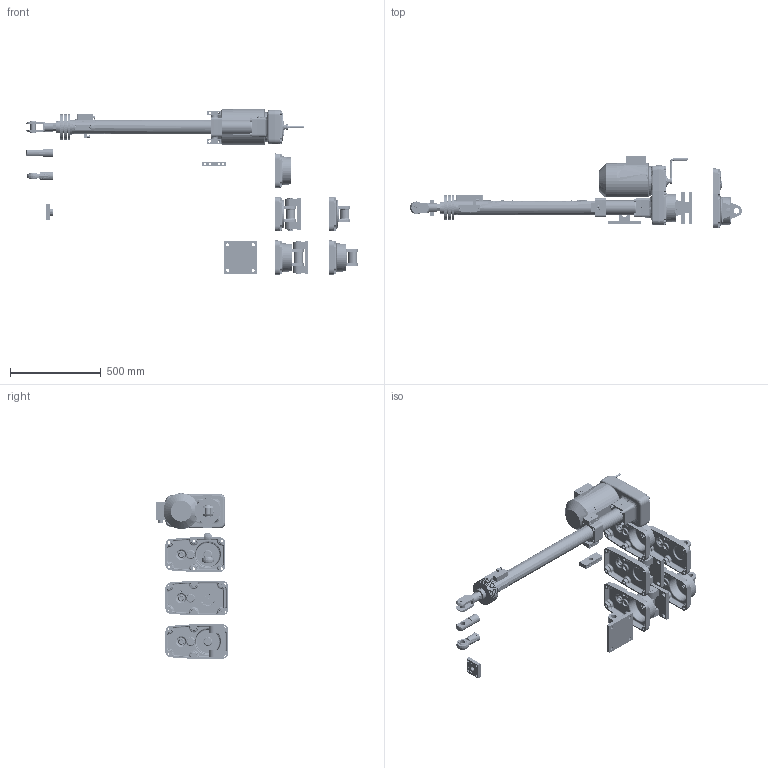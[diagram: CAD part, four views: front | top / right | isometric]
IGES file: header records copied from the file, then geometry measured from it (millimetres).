
Start section: SolidWorks IGES file using analytic representation for surfaces
Global section: file name: D:\ÂÍÓÊÎÂ ÂÑ\ÑÌ\Ñàéò\ÌÝÏ-Ñ3\Êîìïàñ 3D AutoCAD\Êîìïàñ 3D AutoCAD\ÌÝÏ Ñ3 800.IGS; native system: SolidWorks 2012; preprocessor: SolidWorks 2012; author: âíóêîâ; date: 141211.133932; units: millimetre
Bounding box: 1833 x 398.42 x 914 mm (x, y, z)
Surface area: 3335078.3 mm2 (no closed solid volume)
Topology: 0 solids, 0 shells, 4465 faces, 84836 edges, 84691 vertices
Faces by surface type: bspline 2290, revolution 2175
